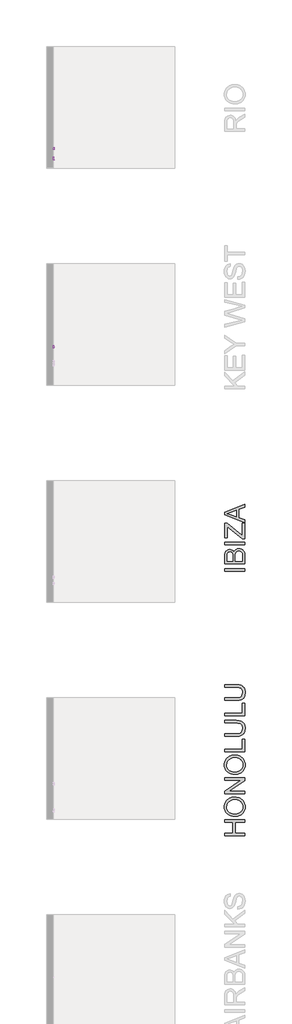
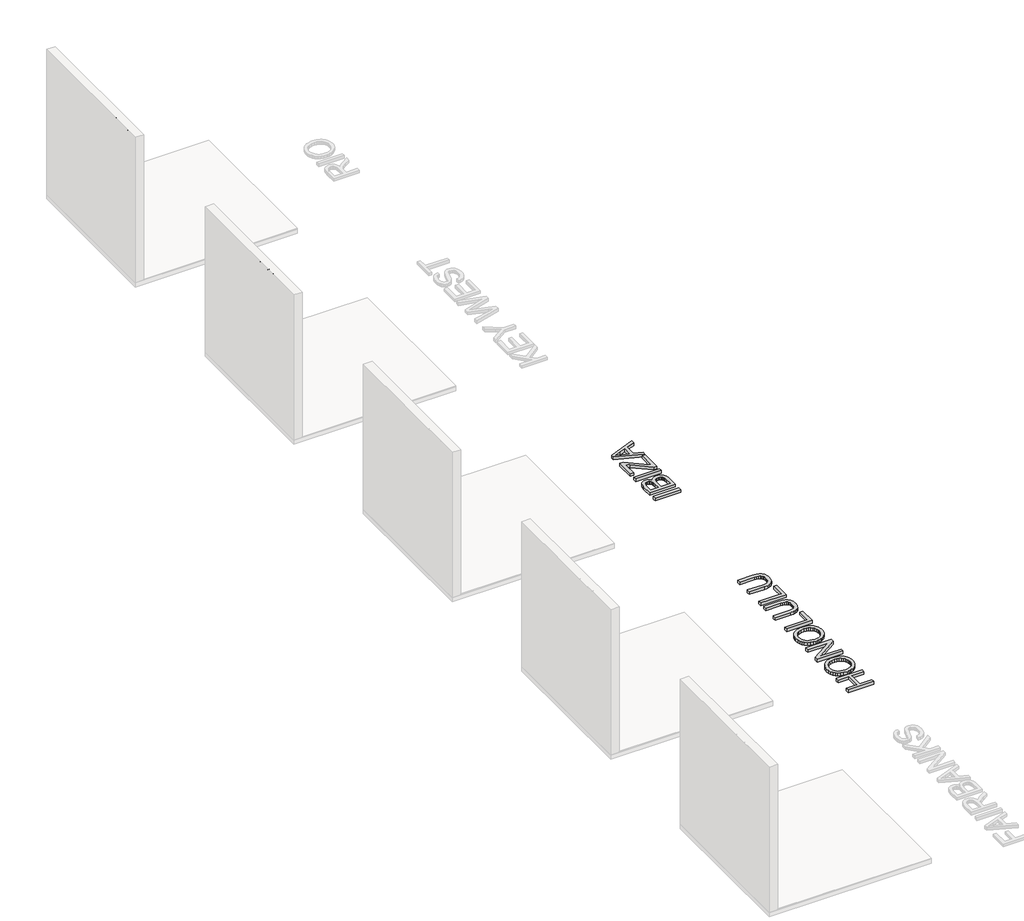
# One storey, part 6 of 7: 5 proxies.
"""IFC4 building model written with IfcOpenShell, lengths in millimetres."""

import ifcopenshell
import ifcopenshell.guid

model = None  # the IFC model being written
_history = None  # IfcOwnerHistory: only IFC2X3 demands one
_inside = {}  # id of a spatial element -> (the spatial element, [elements in it])
_under = {}  # id of a project, library or spatial element -> (it, [spatial elements below it])
_declared = {}  # id of a project -> (the project, [libraries it declares])
_typed = {}  # id of a type object -> (the type object, [elements of that type])
_made_of = {}  # id of a material, layer set ... -> (it, [elements and type objects made of it])


def new_model(schema):
    """Start an empty IFC model of exactly this schema.

    Asked for "IFC4X3", IfcOpenShell would pick the latest addendum, in which some entities
    have other attributes; the version numbers below select the first issue.
    IFC2X3 requires an IfcOwnerHistory on every rooted entity: one is made here for all.
    """
    global model, _history
    if schema == "IFC4X3":
        model = ifcopenshell.file(schema_version=(4, 3, 0, 0))
    else:
        model = ifcopenshell.file(schema=schema)
    _inside.clear()
    _under.clear()
    _declared.clear()
    _typed.clear()
    _made_of.clear()
    _history = None
    if model.schema == "IFC2X3":
        org = make("IfcOrganization", Name="unknown")
        user = make(
            "IfcPersonAndOrganization",
            ThePerson=make("IfcPerson", FamilyName="unknown"),
            TheOrganization=org,
        )
        app = make(
            "IfcApplication",
            ApplicationDeveloper=org,
            Version="unknown",
            ApplicationFullName="unknown",
            ApplicationIdentifier="unknown",
        )
        _history = make(
            "IfcOwnerHistory",
            OwningUser=user,
            OwningApplication=app,
            ChangeAction="ADDED",
            CreationDate=0,
        )
    return model


def make(cls, **values):
    """One entity of the class cls with the attributes given. An attribute that is None is left unset."""
    return model.create_entity(
        cls, **{name: value for name, value in values.items() if value is not None}
    )


def rooted(cls, **values):
    """An entity with a GlobalId (a new one), such as an element, a storey or a relation."""
    return make(cls, GlobalId=ifcopenshell.guid.new(), OwnerHistory=_history, **values)


def si_unit(unit_type, name, prefix=None):
    """IfcSIUnit, for example si_unit("LENGTHUNIT", "METRE", prefix="MILLI")."""
    return make("IfcSIUnit", UnitType=unit_type, Prefix=prefix, Name=name)


def assignment(units):
    """IfcUnitAssignment: the units of a project."""
    return None if units is None else make("IfcUnitAssignment", Units=units)


def point(xyz):
    """IfcCartesianPoint."""
    return None if xyz is None else make("IfcCartesianPoint", Coordinates=xyz)


def direction(xyz):
    """IfcDirection."""
    return None if xyz is None else make("IfcDirection", DirectionRatios=xyz)


def frame(location, z_axis=None, x_axis=None):
    """IfcAxis2Placement3D, a coordinate frame: its origin and axes. An axis left out is left unset."""
    return make(
        "IfcAxis2Placement3D",
        Location=point(location),
        Axis=direction(z_axis),
        RefDirection=direction(x_axis),
    )


def origin():
    """The frame at (0, 0, 0) with its axes left unset."""
    return frame((0.0, 0.0, 0.0))


def origin_with_axes():
    """The frame at (0, 0, 0) with the z axis (0, 0, 1) and the x axis (1, 0, 0) written out."""
    return frame((0.0, 0.0, 0.0), z_axis=(0.0, 0.0, 1.0), x_axis=(1.0, 0.0, 0.0))


def place(relative_to, where):
    """IfcLocalPlacement: puts the frame where relative to a parent placement (None: the world)."""
    return make(
        "IfcLocalPlacement", PlacementRelTo=relative_to, RelativePlacement=where
    )


def context(
    kind, dimensions, precision=None, world=None, true_north=None, identifier=None
):
    """IfcGeometricRepresentationContext, for example the 3D "Model" context."""
    return make(
        "IfcGeometricRepresentationContext",
        ContextIdentifier=identifier,
        ContextType=kind,
        CoordinateSpaceDimension=dimensions,
        Precision=precision,
        WorldCoordinateSystem=world,
        TrueNorth=true_north,
    )


def project(units=None, contexts=None):
    """IfcProject with its units and contexts."""
    return rooted(
        "IfcProject",
        Name="project",
        RepresentationContexts=contexts,
        UnitsInContext=assignment(units),
    )


def spatial(cls, under=None, at=None, **own):
    """A site, building, storey or space (cls), placed at a placement, below another one or the project."""
    s = rooted(cls, ObjectPlacement=at, **own)
    if under is not None:
        _under.setdefault(under.id(), (under, []))[1].append(s)
    return s


def polyline(points):
    """IfcPolyline through the points."""
    return make("IfcPolyline", Points=[point(p) for p in points])


def outline(outer, holes=None, kind="AREA"):
    """IfcArbitraryClosedProfileDef: a profile drawn as a closed curve; with holes, ...WithVoids."""
    if holes is None:
        return make("IfcArbitraryClosedProfileDef", ProfileType=kind, OuterCurve=outer)
    return make(
        "IfcArbitraryProfileDefWithVoids",
        ProfileType=kind,
        OuterCurve=outer,
        InnerCurves=holes,
    )


def extrude(swept, where, along, depth):
    """IfcExtrudedAreaSolid: the profile swept, set in the frame where, extruded along a direction by depth."""
    return make(
        "IfcExtrudedAreaSolid",
        SweptArea=swept,
        Position=where,
        ExtrudedDirection=direction(along),
        Depth=depth,
    )


def shape(context_of_items, identifier, shape_type, items):
    """IfcShapeRepresentation: the items that make up one representation, for example the "Body"."""
    return make(
        "IfcShapeRepresentation",
        ContextOfItems=context_of_items,
        RepresentationIdentifier=identifier,
        RepresentationType=shape_type,
        Items=items,
    )


def made_of(thing, what):
    """Note that an element or type object is made of a material, layer set ...; save() writes the relation."""
    if what is not None:
        _made_of.setdefault(what.id(), (what, []))[1].append(thing)
    return thing


def element(
    cls,
    number,
    at=None,
    inside=None,
    cuts=None,
    type_object=None,
    material=None,
    context=None,
    identifier="Body",
    shape_type=None,
    held_by="IfcProductDefinitionShape",
    body=None,
    shapes=None,
    **own,
):
    """One element of the class cls, such as IfcWall. Its Tag is "e" and its number.

    at: its placement. inside: the storey or other place that contains it. cuts: it is an
    opening in that element (IfcRelVoidsElement). A single representation is given by context,
    identifier, shape_type and body (its items); several are given by shapes. held_by: the class
    of the entity that holds the representations. save() writes the other relations.
    """
    e = rooted(cls, Tag="e%d" % number, ObjectPlacement=at, **own)
    if body is not None:
        shapes = [shape(context, identifier, shape_type, body)]
    if shapes is not None:
        e.Representation = make(held_by, Representations=shapes)
    if inside is not None:
        _inside.setdefault(inside.id(), (inside, []))[1].append(e)
    if cuts is not None:
        rooted(
            "IfcRelVoidsElement", RelatingBuildingElement=cuts, RelatedOpeningElement=e
        )
    if type_object is not None:
        _typed.setdefault(type_object.id(), (type_object, []))[1].append(e)
    return made_of(e, material)


def aggregate(whole, parts):
    """IfcRelAggregates: a whole, such as a stair, and the parts it consists of."""
    return rooted("IfcRelAggregates", RelatingObject=whole, RelatedObjects=parts)


def save(model, path):
    """Write the relations noted so far, then the file.

    IfcRelAggregates (storeys below a building ...), IfcRelContainedInSpatialStructure (elements
    in a storey), IfcRelDefinesByType, IfcRelAssociatesMaterial and IfcRelDeclares: one each for
    every whole, place, type object, material and project.
    """
    for whole, parts in _under.values():
        aggregate(whole, parts)
    for where, things in _inside.values():
        rooted(
            "IfcRelContainedInSpatialStructure",
            RelatedElements=things,
            RelatingStructure=where,
        )
    for kind, things in _typed.values():
        rooted("IfcRelDefinesByType", RelatedObjects=things, RelatingType=kind)
    for what, things in _made_of.values():
        rooted("IfcRelAssociatesMaterial", RelatedObjects=things, RelatingMaterial=what)
    for by, libraries in _declared.values():
        rooted("IfcRelDeclares", RelatingContext=by, RelatedDefinitions=libraries)
    model.write(path)


model = new_model("IFC4")

# Units and contexts
model_context = context("Model", 3, world=origin())
ifc_project = project(units=[si_unit("LENGTHUNIT", "METRE", prefix="MILLI")], contexts=[model_context])

# Site, building, storey
site = spatial("IfcSite", under=ifc_project)
building = spatial("IfcBuilding", under=site)
storey = spatial("IfcBuildingStorey", under=building, Name="PORTOBELLO - SHOWROOM", Elevation=0.0)

# Proxies
placement = place(None, origin())
element("IfcBuildingElementProxy", 1, Name="10mm Arial", ObjectType="10mm Arial", at=placement, inside=storey, context=model_context, shape_type="SweptSolid", body=[
    extrude(outline(polyline([(14906.1095472, 2478.0448381), (14906.1095472, 2578.5011483), (14949.3969953, 2578.5011483), (14969.4956149, 2575.7910842), (14980.4830239, 2566.2016269), (14984.5910395, 2551.0081005), (14982.8895853, 2541.1120748), (14977.7852226, 2532.9083063), (14969.1246673, 2526.8934357), (14956.7546352, 2523.5641036), (14963.8915459, 2518.1930265), (14974.0696144, 2505.2681057), (14990.8205079, 2478.0448381), (14976.2278555, 2478.0448381), (14963.1557819, 2498.866959), (14953.7134774, 2512.6502711), (14947.0793387, 2519.1617824), (14941.1073876, 2521.5530154), (14933.8233241, 2521.9944738), (14918.6665859, 2521.9944738), (14918.6665859, 2478.0448381), (14906.1095472, 2478.0448381)]), holes=[polyline([(14918.6665859, 2534.5515126), (14946.7727704, 2534.5515126), (14961.1079055, 2536.3296089), (14969.2503603, 2542.0195171), (14972.0340007, 2550.5421166), (14966.7242372, 2561.6031019), (14949.9365555, 2565.9441095), (14918.6665859, 2565.9441095), (14918.6665859, 2534.5515126)])]), frame((45290.81561, 0.0, 0.0), z_axis=(1.0, 0.0, 0.0), x_axis=(0.0, 1.0, 0.0)), (0.0, 0.0, 1.0), 20.0),
    extrude(outline(polyline([(45310.81561, 15017.5532662), (45310.81561, 15004.9962275), (45290.81561, 15004.9962275), (45290.81561, 15017.5532662), (45310.81561, 15017.5532662)])), frame((0.0, 0.0, 2565.9441095), z_axis=(0.0, 0.0, 1.0), x_axis=(1.0, 0.0, 0.0)), (0.0, 0.0, 1.0), 12.5570388),
    extrude(outline(polyline([(45310.81561, 15017.5532662), (45310.81561, 15004.9962275), (45290.81561, 15004.9962275), (45290.81561, 15017.5532662), (45310.81561, 15017.5532662)])), frame((0.0, 0.0, 2478.0448381), z_axis=(0.0, 0.0, 1.0), x_axis=(1.0, 0.0, 0.0)), (0.0, 0.0, 1.0), 73.7726028),
    extrude(outline(polyline([(15033.2495647, 2514.9311395), (15035.9657601, 2532.718234), (15044.1143463, 2545.2200904), (15054.1820502, 2551.3453256), (15066.2363169, 2553.3870707), (15079.4279522, 2550.9008016), (15089.9647056, 2543.4419941), (15096.8716901, 2531.5992596), (15099.1740182, 2515.9612091), (15095.1027908, 2493.6185092), (15083.2447279, 2480.9756313), (15066.2363169, 2476.4752083), (15052.8852662, 2478.9522804), (15042.3607755, 2486.3834967), (15035.5273674, 2498.4745516), (15033.2495647, 2514.9311395)]), holes=[polyline([(15045.8066035, 2514.955665), (15047.2597374, 2503.591177), (15051.619139, 2495.4947074), (15058.1797012, 2490.6478621), (15066.2363169, 2489.032247), (15074.2561444, 2490.6570592), (15080.804444, 2495.5314956), (15085.1638456, 2503.7352641), (15086.6169795, 2515.3480724), (15085.1546485, 2526.3814666), (15080.7676558, 2534.3675716), (15074.2101592, 2539.2144169), (15066.2363169, 2540.8300319), (15058.1797012, 2539.2205482), (15051.619139, 2534.392097), (15047.2597374, 2526.3140216), (15045.8066035, 2514.955665)])]), frame((45290.81561, 0.0, 0.0), z_axis=(1.0, 0.0, 0.0), x_axis=(0.0, 1.0, 0.0)), (0.0, 0.0, 1.0), 20.0),
])
element("IfcBuildingElementProxy", 2, Name="10mm Arial Narrow", ObjectType="10mm Arial Narrow", at=placement, inside=storey, context=model_context, shape_type="SweptSolid", body=[
    extrude(outline(polyline([(10733.2446063, 2478.0448381), (10733.2446063, 2578.7634419), (10764.541491, 2578.7634419), (10780.8371925, 2576.8851211), (10792.3101786, 2567.4046779), (10796.599857, 2550.3855691), (10794.8135486, 2538.3097436), (10789.4546234, 2528.6833498), (10779.7108346, 2522.3820914), (10764.7699354, 2520.2816719), (10742.9915679, 2520.2816719), (10742.9915679, 2478.0448381), (10733.2446063, 2478.0448381)]), holes=[polyline([(10742.9915679, 2531.6531272), (10765.9629229, 2531.6531272), (10781.8271183, 2536.1839414), (10786.8528954, 2549.8525322), (10784.3780809, 2560.0183086), (10778.4004521, 2565.8182584), (10765.7344785, 2567.3919866), (10742.9915679, 2567.3919866), (10742.9915679, 2531.6531272)])]), frame((45290.81561, 0.0, 0.0), z_axis=(1.0, 0.0, 0.0), x_axis=(0.0, 1.0, 0.0)), (0.0, 0.0, 1.0), 20.0),
    extrude(outline(polyline([(10804.7223251, 2514.5959443), (10806.676794, 2531.1867199), (10812.5402006, 2543.1388047), (10821.3987673, 2550.3633593), (10832.3387164, 2552.7715441), (10843.151752, 2550.3633593), (10852.0357014, 2543.1388047), (10857.9752562, 2531.3770902), (10859.9551078, 2515.3574257), (10858.0101574, 2498.1955391), (10852.1753064, 2486.0530839), (10843.3262582, 2478.8285294), (10832.3387164, 2476.4203445), (10821.4780883, 2478.834875), (10812.6036574, 2486.0784667), (10806.6926582, 2498.0368971), (10804.7223251, 2514.5959443)]), holes=[polyline([(10814.4692867, 2514.621327), (10815.7733236, 2502.0695756), (10819.6854342, 2493.1983175), (10825.5266309, 2487.925059), (10832.6179263, 2486.1673061), (10839.3379995, 2487.9409232), (10845.0300728, 2493.2617743), (10848.9136278, 2502.1488966), (10850.2081461, 2514.621327), (10848.9041093, 2527.1350043), (10844.9919987, 2535.9935711), (10839.1508019, 2541.2668296), (10832.0595066, 2543.0245825), (10825.2918408, 2541.2573111), (10819.6092861, 2535.955497), (10815.7542866, 2527.0874118), (10814.4692867, 2514.621327)])]), frame((45290.81561, 0.0, 0.0), z_axis=(1.0, 0.0, 0.0), x_axis=(0.0, 1.0, 0.0)), (0.0, 0.0, 1.0), 20.0),
    extrude(outline(polyline([(10931.4328266, 2486.1673061), (10933.0573202, 2476.4203445), (10925.6963335, 2476.4203445), (10917.4215692, 2478.539801), (10913.1065081, 2484.3397508), (10911.9389033, 2498.985576), (10911.9389033, 2541.4000889), (10903.8164352, 2541.4000889), (10903.8164352, 2544.6490761), (10902.1919416, 2539.7755952), (10894.6278933, 2541.4000889), (10888.5487336, 2539.0775706), (10884.6778699, 2532.5922876), (10882.6980183, 2517.184981), (10882.6980183, 2478.0448381), (10872.9510567, 2478.0448381), (10872.9510567, 2551.1470505), (10882.6980183, 2551.1470505), (10882.6980183, 2541.4508543), (10888.9421656, 2550.5378654), (10895.3386092, 2552.7715441), (10903.8164352, 2551.1470505), (10911.9389033, 2551.1470505), (10911.9389033, 2567.3919866), (10921.6858649, 2575.5144546), (10921.6858649, 2551.1470505), (10931.4328266, 2551.1470505), (10931.4328266, 2541.4000889), (10921.6858649, 2541.4000889), (10921.6858649, 2496.7518973), (10922.5488772, 2488.7563428), (10927.1685309, 2486.1673061), (10931.4328266, 2486.1673061)])), frame((45290.81561, 0.0, 0.0), z_axis=(1.0, 0.0, 0.0), x_axis=(0.0, 1.0, 0.0)), (0.0, 0.0, 1.0), 20.0),
    extrude(outline(polyline([(10937.930801, 2514.5959443), (10939.8852699, 2531.1867199), (10945.7486765, 2543.1388047), (10954.6072432, 2550.3633593), (10965.5471924, 2552.7715441), (10976.360228, 2550.3633593), (10985.2441774, 2543.1388047), (10991.1837321, 2531.3770902), (10993.1635837, 2515.3574257), (10991.2186334, 2498.1955391), (10985.3837823, 2486.0530839), (10976.5347341, 2478.8285294), (10965.5471924, 2476.4203445), (10954.6865642, 2478.834875), (10945.8121333, 2486.0784667), (10939.9011341, 2498.0368971), (10937.930801, 2514.5959443)]), holes=[polyline([(10947.6777627, 2514.621327), (10948.9817995, 2502.0695756), (10952.8939101, 2493.1983175), (10958.7351069, 2487.925059), (10965.8264022, 2486.1673061), (10972.5464754, 2487.9409232), (10978.2385487, 2493.2617743), (10982.1221037, 2502.1488966), (10983.4166221, 2514.621327), (10982.1125852, 2527.1350043), (10978.2004746, 2535.9935711), (10972.3592779, 2541.2668296), (10965.2679825, 2543.0245825), (10958.5003168, 2541.2573111), (10952.817762, 2535.955497), (10948.9627625, 2527.0874118), (10947.6777627, 2514.621327)])]), frame((45290.81561, 0.0, 0.0), z_axis=(1.0, 0.0, 0.0), x_axis=(0.0, 1.0, 0.0)), (0.0, 0.0, 1.0), 20.0),
    extrude(outline(polyline([(11015.9064942, 2478.0448381), (11006.1595326, 2478.0448381), (11006.1595326, 2578.7634419), (11015.9064942, 2578.7634419), (11015.9064942, 2543.3545577), (11023.305555, 2550.4363345), (11032.5067883, 2552.7715441), (11045.388515, 2548.5707052), (11054.6658964, 2535.8412748), (11058.1433281, 2515.154364), (11056.2110691, 2498.7000205), (11050.4142921, 2486.4972814), (11042.0411697, 2478.9395787), (11032.3798748, 2476.4203445), (11023.0390365, 2479.0347639), (11015.9064942, 2486.801874), (11015.9064942, 2478.0448381)]), holes=[polyline([(11015.9064942, 2515.154364), (11017.9878767, 2497.9068107), (11023.876666, 2489.1751576), (11032.3291093, 2486.1673061), (11038.2718369, 2487.9567874), (11043.5101942, 2493.3252311), (11048.3963664, 2514.7482406), (11043.6878732, 2536.1839414), (11038.4431702, 2541.3144222), (11032.1260476, 2543.0245825), (11026.1484188, 2541.2351012), (11020.8561232, 2535.8666575), (11015.9064942, 2515.154364)])]), frame((45290.81561, 0.0, 0.0), z_axis=(1.0, 0.0, 0.0), x_axis=(0.0, 1.0, 0.0)), (0.0, 0.0, 1.0), 20.0),
    extrude(outline(polyline([(11110.1271236, 2500.7877486), (11119.8740852, 2499.163255), (11116.1745549, 2489.2766884), (11110.355568, 2482.1568376), (11102.6519147, 2477.8544678), (11093.2983851, 2476.4203445), (11081.7048311, 2478.834875), (11072.5607089, 2486.0784667), (11066.6211541, 2497.8846009), (11064.6413025, 2513.9867592), (11066.6306726, 2530.6536829), (11072.5987829, 2542.8342121), (11081.6128188, 2550.2872111), (11092.7399654, 2552.7715441), (11103.4229146, 2550.3728778), (11112.1704319, 2543.1768787), (11118.005283, 2531.4373741), (11119.9502334, 2515.4081911), (11119.8740852, 2512.1592039), (11074.3882642, 2512.1592039), (11080.3912757, 2492.716046), (11086.3213119, 2487.8044911), (11093.4252986, 2486.1673061), (11103.6037664, 2489.8224168), (11110.1271236, 2500.7877486)]), holes=[polyline([(11075.0482147, 2521.9061655), (11110.1271236, 2521.9061655), (11105.8628278, 2536.17125), (11100.0374953, 2541.3112494), (11092.8161135, 2543.0245825), (11080.6070288, 2537.3134721), (11075.0482147, 2521.9061655)])]), frame((45290.81561, 0.0, 0.0), z_axis=(1.0, 0.0, 0.0), x_axis=(0.0, 1.0, 0.0)), (0.0, 0.0, 1.0), 20.0),
    extrude(outline(polyline([(45310.81561, 11142.6169957), (45310.81561, 11132.8700341), (45290.81561, 11132.8700341), (45290.81561, 11142.6169957), (45310.81561, 11142.6169957)])), frame((0.0, 0.0, 2478.0448381), z_axis=(0.0, 0.0, 1.0), x_axis=(1.0, 0.0, 0.0)), (0.0, 0.0, 1.0), 100.7186038),
    extrude(outline(polyline([(45310.81561, 11168.6088935), (45310.81561, 11158.8619318), (45290.81561, 11158.8619318), (45290.81561, 11168.6088935), (45310.81561, 11168.6088935)])), frame((0.0, 0.0, 2478.0448381), z_axis=(0.0, 0.0, 1.0), x_axis=(1.0, 0.0, 0.0)), (0.0, 0.0, 1.0), 100.7186038),
    extrude(outline(polyline([(11179.9803487, 2514.5959443), (11181.9348176, 2531.1867199), (11187.7982242, 2543.1388047), (11196.656791, 2550.3633593), (11207.5967401, 2552.7715441), (11218.4097757, 2550.3633593), (11227.2937251, 2543.1388047), (11233.2332799, 2531.3770902), (11235.2131315, 2515.3574257), (11233.2681811, 2498.1955391), (11227.43333, 2486.0530839), (11218.5842818, 2478.8285294), (11207.5967401, 2476.4203445), (11196.7361119, 2478.834875), (11187.861681, 2486.0784667), (11181.9506818, 2498.0368971), (11179.9803487, 2514.5959443)]), holes=[polyline([(11189.7273104, 2514.621327), (11191.0313473, 2502.0695756), (11194.9434578, 2493.1983175), (11200.7846546, 2487.925059), (11207.8759499, 2486.1673061), (11214.5960231, 2487.9409232), (11220.2880964, 2493.2617743), (11224.1716515, 2502.1488966), (11225.4661698, 2514.621327), (11224.1621329, 2527.1350043), (11220.2500224, 2535.9935711), (11214.4088256, 2541.2668296), (11207.3175303, 2543.0245825), (11200.5498645, 2541.2573111), (11194.8673097, 2535.955497), (11191.0123102, 2527.0874118), (11189.7273104, 2514.621327)])]), frame((45290.81561, 0.0, 0.0), z_axis=(1.0, 0.0, 0.0), x_axis=(0.0, 1.0, 0.0)), (0.0, 0.0, 1.0), 20.0),
])
element("IfcBuildingElementProxy", 3, Name="10mm Arial Narrow", ObjectType="10mm Arial Narrow", at=placement, inside=storey, context=model_context, shape_type="SweptSolid", body=[
    extrude(outline(polyline([(15139.2628301, 2478.0448381), (15139.2628301, 2578.7634419), (15170.5597147, 2578.7634419), (15186.8554163, 2576.8851211), (15198.3284024, 2567.4046779), (15202.6180808, 2550.3855691), (15200.8317724, 2538.3097436), (15195.4728472, 2528.6833498), (15185.7290584, 2522.3820914), (15170.7881592, 2520.2816719), (15149.0097917, 2520.2816719), (15149.0097917, 2478.0448381), (15139.2628301, 2478.0448381)]), holes=[polyline([(15149.0097917, 2531.6531272), (15171.9811467, 2531.6531272), (15187.8453421, 2536.1839414), (15192.8711192, 2549.8525322), (15190.3963047, 2560.0183086), (15184.4186758, 2565.8182584), (15171.7527022, 2567.3919866), (15149.0097917, 2567.3919866), (15149.0097917, 2531.6531272)])]), frame((45290.81561, 0.0, 0.0), z_axis=(1.0, 0.0, 0.0), x_axis=(0.0, 1.0, 0.0)), (0.0, 0.0, 1.0), 20.0),
    extrude(outline(polyline([(15210.7405489, 2514.5959443), (15212.6950177, 2531.1867199), (15218.5584243, 2543.1388047), (15227.4169911, 2550.3633593), (15238.3569402, 2552.7715441), (15249.1699758, 2550.3633593), (15258.0539252, 2543.1388047), (15263.99348, 2531.3770902), (15265.9733316, 2515.3574257), (15264.0283812, 2498.1955391), (15258.1935301, 2486.0530839), (15249.3444819, 2478.8285294), (15238.3569402, 2476.4203445), (15227.496312, 2478.834875), (15218.6218811, 2486.0784667), (15212.7108819, 2498.0368971), (15210.7405489, 2514.5959443)]), holes=[polyline([(15220.4875105, 2514.621327), (15221.7915474, 2502.0695756), (15225.703658, 2493.1983175), (15231.5448547, 2487.925059), (15238.63615, 2486.1673061), (15245.3562232, 2487.9409232), (15251.0482965, 2493.2617743), (15254.9318516, 2502.1488966), (15256.2263699, 2514.621327), (15254.922333, 2527.1350043), (15251.0102225, 2535.9935711), (15245.1690257, 2541.2668296), (15238.0777304, 2543.0245825), (15231.3100646, 2541.2573111), (15225.6275098, 2535.955497), (15221.7725103, 2527.0874118), (15220.4875105, 2514.621327)])]), frame((45290.81561, 0.0, 0.0), z_axis=(1.0, 0.0, 0.0), x_axis=(0.0, 1.0, 0.0)), (0.0, 0.0, 1.0), 20.0),
    extrude(outline(polyline([(15337.4510503, 2486.1673061), (15339.075544, 2476.4203445), (15331.7145573, 2476.4203445), (15323.439793, 2478.539801), (15319.1247318, 2484.3397508), (15317.957127, 2498.985576), (15317.957127, 2541.4000889), (15309.834659, 2541.4000889), (15309.834659, 2544.6490761), (15308.2101654, 2539.7755952), (15300.646117, 2541.4000889), (15294.5669573, 2539.0775706), (15290.6960937, 2532.5922876), (15288.7162421, 2517.184981), (15288.7162421, 2478.0448381), (15278.9692804, 2478.0448381), (15278.9692804, 2551.1470505), (15288.7162421, 2551.1470505), (15288.7162421, 2541.4508543), (15294.9603894, 2550.5378654), (15301.356833, 2552.7715441), (15309.834659, 2551.1470505), (15317.957127, 2551.1470505), (15317.957127, 2567.3919866), (15327.7040887, 2575.5144546), (15327.7040887, 2551.1470505), (15337.4510503, 2551.1470505), (15337.4510503, 2541.4000889), (15327.7040887, 2541.4000889), (15327.7040887, 2496.7518973), (15328.5671009, 2488.7563428), (15333.1867546, 2486.1673061), (15337.4510503, 2486.1673061)])), frame((45290.81561, 0.0, 0.0), z_axis=(1.0, 0.0, 0.0), x_axis=(0.0, 1.0, 0.0)), (0.0, 0.0, 1.0), 20.0),
    extrude(outline(polyline([(15343.9490248, 2514.5959443), (15345.9034937, 2531.1867199), (15351.7669003, 2543.1388047), (15360.625467, 2550.3633593), (15371.5654161, 2552.7715441), (15382.3784517, 2550.3633593), (15391.2624011, 2543.1388047), (15397.2019559, 2531.3770902), (15399.1818075, 2515.3574257), (15397.2368571, 2498.1955391), (15391.4020061, 2486.0530839), (15382.5529579, 2478.8285294), (15371.5654161, 2476.4203445), (15360.704788, 2478.834875), (15351.8303571, 2486.0784667), (15345.9193579, 2498.0368971), (15343.9490248, 2514.5959443)]), holes=[polyline([(15353.6959864, 2514.621327), (15355.0000233, 2502.0695756), (15358.9121339, 2493.1983175), (15364.7533306, 2487.925059), (15371.844626, 2486.1673061), (15378.5646991, 2487.9409232), (15384.2567725, 2493.2617743), (15388.1403275, 2502.1488966), (15389.4348458, 2514.621327), (15388.130809, 2527.1350043), (15384.2186984, 2535.9935711), (15378.3775016, 2541.2668296), (15371.2862063, 2543.0245825), (15364.5185405, 2541.2573111), (15358.8359857, 2535.955497), (15354.9809863, 2527.0874118), (15353.6959864, 2514.621327)])]), frame((45290.81561, 0.0, 0.0), z_axis=(1.0, 0.0, 0.0), x_axis=(0.0, 1.0, 0.0)), (0.0, 0.0, 1.0), 20.0),
    extrude(outline(polyline([(15421.924718, 2478.0448381), (15412.1777564, 2478.0448381), (15412.1777564, 2578.7634419), (15421.924718, 2578.7634419), (15421.924718, 2543.3545577), (15429.3237787, 2550.4363345), (15438.5250121, 2552.7715441), (15451.4067387, 2548.5707052), (15460.6841202, 2535.8412748), (15464.1615518, 2515.154364), (15462.2292928, 2498.7000205), (15456.4325158, 2486.4972814), (15448.0593935, 2478.9395787), (15438.3980985, 2476.4203445), (15429.0572603, 2479.0347639), (15421.924718, 2486.801874), (15421.924718, 2478.0448381)]), holes=[polyline([(15421.924718, 2515.154364), (15424.0061004, 2497.9068107), (15429.8948898, 2489.1751576), (15438.3473331, 2486.1673061), (15444.2900607, 2487.9567874), (15449.528418, 2493.3252311), (15454.4145902, 2514.7482406), (15449.706097, 2536.1839414), (15444.461394, 2541.3144222), (15438.1442714, 2543.0245825), (15432.1666426, 2541.2351012), (15426.874347, 2535.8666575), (15421.924718, 2515.154364)])]), frame((45290.81561, 0.0, 0.0), z_axis=(1.0, 0.0, 0.0), x_axis=(0.0, 1.0, 0.0)), (0.0, 0.0, 1.0), 20.0),
    extrude(outline(polyline([(15516.1453473, 2500.7877486), (15525.892309, 2499.163255), (15522.1927786, 2489.2766884), (15516.3737917, 2482.1568376), (15508.6701385, 2477.8544678), (15499.3166088, 2476.4203445), (15487.7230549, 2478.834875), (15478.5789326, 2486.0784667), (15472.6393779, 2497.8846009), (15470.6595263, 2513.9867592), (15472.6488964, 2530.6536829), (15478.6170067, 2542.8342121), (15487.6310425, 2550.2872111), (15498.7581892, 2552.7715441), (15509.4411384, 2550.3728778), (15518.1886557, 2543.1768787), (15524.0235068, 2531.4373741), (15525.9684571, 2515.4081911), (15525.892309, 2512.1592039), (15480.4064879, 2512.1592039), (15486.4094995, 2492.716046), (15492.3395357, 2487.8044911), (15499.4435224, 2486.1673061), (15509.6219902, 2489.8224168), (15516.1453473, 2500.7877486)]), holes=[polyline([(15481.0664385, 2521.9061655), (15516.1453473, 2521.9061655), (15511.8810516, 2536.17125), (15506.0557191, 2541.3112494), (15498.8343373, 2543.0245825), (15486.6252525, 2537.3134721), (15481.0664385, 2521.9061655)])]), frame((45290.81561, 0.0, 0.0), z_axis=(1.0, 0.0, 0.0), x_axis=(0.0, 1.0, 0.0)), (0.0, 0.0, 1.0), 20.0),
    extrude(outline(polyline([(45310.81561, 15548.6352195), (45310.81561, 15538.8882579), (45290.81561, 15538.8882579), (45290.81561, 15548.6352195), (45310.81561, 15548.6352195)])), frame((0.0, 0.0, 2478.0448381), z_axis=(0.0, 0.0, 1.0), x_axis=(1.0, 0.0, 0.0)), (0.0, 0.0, 1.0), 100.7186038),
    extrude(outline(polyline([(45310.81561, 15574.6271172), (45310.81561, 15564.8801556), (45290.81561, 15564.8801556), (45290.81561, 15574.6271172), (45310.81561, 15574.6271172)])), frame((0.0, 0.0, 2478.0448381), z_axis=(0.0, 0.0, 1.0), x_axis=(1.0, 0.0, 0.0)), (0.0, 0.0, 1.0), 100.7186038),
    extrude(outline(polyline([(15585.9985725, 2514.5959443), (15587.9530414, 2531.1867199), (15593.816448, 2543.1388047), (15602.6750147, 2550.3633593), (15613.6149639, 2552.7715441), (15624.4279994, 2550.3633593), (15633.3119489, 2543.1388047), (15639.2515036, 2531.3770902), (15641.2313552, 2515.3574257), (15639.2864049, 2498.1955391), (15633.4515538, 2486.0530839), (15624.6025056, 2478.8285294), (15613.6149639, 2476.4203445), (15602.7543357, 2478.834875), (15593.8799048, 2486.0784667), (15587.9689056, 2498.0368971), (15585.9985725, 2514.5959443)]), holes=[polyline([(15595.7455342, 2514.621327), (15597.049571, 2502.0695756), (15600.9616816, 2493.1983175), (15606.8028784, 2487.925059), (15613.8941737, 2486.1673061), (15620.6142469, 2487.9409232), (15626.3063202, 2493.2617743), (15630.1898752, 2502.1488966), (15631.4843936, 2514.621327), (15630.1803567, 2527.1350043), (15626.2682461, 2535.9935711), (15620.4270494, 2541.2668296), (15613.335754, 2543.0245825), (15606.5680883, 2541.2573111), (15600.8855335, 2535.955497), (15597.030534, 2527.0874118), (15595.7455342, 2514.621327)])]), frame((45290.81561, 0.0, 0.0), z_axis=(1.0, 0.0, 0.0), x_axis=(0.0, 1.0, 0.0)), (0.0, 0.0, 1.0), 20.0),
])
element("IfcBuildingElementProxy", 4, Name="450mm Arial", ObjectType="450mm Arial", at=placement, inside=storey, context=model_context, shape_type="SweptSolid", body=[
    extrude(outline(polyline([(49549.5356427, -108.6241778), (49099.8794999, -108.6241778), (49099.8794999, -52.4171599), (49282.552308, -52.4171599), (49282.552308, 186.462666), (49099.8794999, 186.462666), (49099.8794999, 242.6696838), (49549.5356427, 242.6696838), (49549.5356427, 186.462666), (49338.7593258, 186.462666), (49338.7593258, -52.4171599), (49549.5356427, -52.4171599), (49549.5356427, -108.6241778)])), origin_with_axes(), (0.0, 0.0, 1.0), 50.0),
    extrude(outline(polyline([(49330.6356553, 319.9543334), (49277.8935476, 323.7005531), (49231.2030255, 334.9392121), (49190.5640892, 353.6703106), (49155.9767385, 379.8938485), (49128.3603753, 412.0386091), (49108.6344016, 448.5333757), (49096.7988174, 489.3781483), (49092.8536227, 534.5729269), (49094.7061489, 564.823994), (49100.2637276, 593.5518729), (49109.5263587, 620.7565635), (49122.4940423, 646.438066), (49138.7756894, 669.8759533), (49157.9802113, 690.3497987), (49180.1076078, 707.8596021), (49205.1578791, 722.4053635), (49232.5615448, 733.8361364), (49261.7491246, 742.0009742), (49292.7206186, 746.8998769), (49325.4760267, 748.5328445), (49358.6636909, 746.8141118), (49390.0537186, 741.6579138), (49419.6461097, 733.0642505), (49447.4408642, 721.0331219), (49472.7038329, 705.8492681), (49494.7008665, 687.7974292), (49513.431965, 666.8776053), (49528.8971284, 643.0897963), (49541.0002997, 617.3705573), (49549.6454221, 590.656443), (49554.8324955, 562.9474536), (49556.56152, 534.2435889), (49554.6506735, 503.4642088), (49548.918134, 474.3589635), (49539.3639015, 446.9278529), (49525.9879761, 421.1708772), (49509.3083789, 397.7604347), (49489.8431311, 377.3689239), (49467.5922328, 359.9963446), (49442.555684, 345.642697), (49415.7386516, 334.4040379), (49388.1463027, 326.3764243), (49359.7786372, 321.5598561), (49330.6356553, 319.9543334)]), holes=[polyline([(49331.1845519, 376.1613512), (49368.4477738, 378.971016), (49401.5256587, 387.4000103), (49430.4182066, 401.4483342), (49455.1254175, 421.1159876), (49474.913142, 445.0238677), (49489.047231, 471.7928716), (49497.5276843, 501.4229993), (49500.3545021, 533.9142509), (49497.5002395, 566.9612604), (49488.9374516, 596.9413098), (49474.6661385, 623.8543991), (49454.6863001, 647.7005283), (49429.4576374, 667.2240963), (49399.4398514, 681.169502), (49364.6329421, 689.5367455), (49325.0369093, 692.3258266), (49275.2794272, 687.5504257), (49232.273374, 673.2242229), (49197.1028206, 649.7177235), (49170.8518379, 617.4014327), (49154.5084399, 578.4160475), (49149.0606406, 534.9022649), (49151.6850527, 503.5396821), (49159.5582892, 474.441298), (49172.6803499, 447.6071126), (49191.0512349, 423.0371259), (49215.5560402, 402.5289745), (49247.0798614, 387.8802949), (49285.6226986, 379.0910871), (49331.1845519, 376.1613512)])]), origin_with_axes(), (0.0, 0.0, 1.0), 50.0),
    extrude(outline(polyline([(49549.5356427, 825.817494), (49099.8794999, 825.817494), (49099.8794999, 885.9765678), (49456.1134314, 1120.9043378), (49099.8794999, 1120.9043378), (49099.8794999, 1177.1113556), (49549.5356427, 1177.1113556), (49549.5356427, 1116.9522818), (49193.1919319, 882.0245119), (49549.5356427, 882.0245119), (49549.5356427, 825.817494)])), origin_with_axes(), (0.0, 0.0, 1.0), 50.0),
    extrude(outline(polyline([(49330.6356553, 1254.3960052), (49277.8935476, 1258.1422248), (49231.2030255, 1269.3808839), (49190.5640892, 1288.1119824), (49155.9767385, 1314.3355203), (49128.3603753, 1346.4802809), (49108.6344016, 1382.9750475), (49096.7988174, 1423.8198201), (49092.8536227, 1469.0145987), (49094.7061489, 1499.2656658), (49100.2637276, 1527.9935447), (49109.5263587, 1555.1982353), (49122.4940423, 1580.8797378), (49138.7756894, 1604.3176251), (49157.9802113, 1624.7914705), (49180.1076078, 1642.3012739), (49205.1578791, 1656.8470353), (49232.5615448, 1668.2778082), (49261.7491246, 1676.442646), (49292.7206186, 1681.3415487), (49325.4760267, 1682.9745163), (49358.6636909, 1681.2557836), (49390.0537186, 1676.0995856), (49419.6461097, 1667.5059223), (49447.4408642, 1655.4747937), (49472.7038329, 1640.2909399), (49494.7008665, 1622.239101), (49513.431965, 1601.3192771), (49528.8971284, 1577.5314681), (49541.0002997, 1551.8122291), (49549.6454221, 1525.0981148), (49554.8324955, 1497.3891254), (49556.56152, 1468.6852607), (49554.6506735, 1437.9058806), (49548.918134, 1408.8006352), (49539.3639015, 1381.3695247), (49525.9879761, 1355.612549), (49509.3083789, 1332.2021065), (49489.8431311, 1311.8105957), (49467.5922328, 1294.4380164), (49442.555684, 1280.0843688), (49415.7386516, 1268.8457097), (49388.1463027, 1260.8180961), (49359.7786372, 1256.0015279), (49330.6356553, 1254.3960052)]), holes=[polyline([(49331.1845519, 1310.603023), (49368.4477738, 1313.4126878), (49401.5256587, 1321.8416821), (49430.4182066, 1335.890006), (49455.1254175, 1355.5576594), (49474.913142, 1379.4655394), (49489.047231, 1406.2345434), (49497.5276843, 1435.8646711), (49500.3545021, 1468.3559227), (49497.5002395, 1501.4029322), (49488.9374516, 1531.3829816), (49474.6661385, 1558.2960709), (49454.6863001, 1582.1422001), (49429.4576374, 1601.6657681), (49399.4398514, 1615.6111738), (49364.6329421, 1623.9784173), (49325.0369093, 1626.7674984), (49275.2794272, 1621.9920975), (49232.273374, 1607.6658947), (49197.1028206, 1584.1593953), (49170.8518379, 1551.8431045), (49154.5084399, 1512.8577193), (49149.0606406, 1469.3439367), (49151.6850527, 1437.9813539), (49159.5582892, 1408.8829697), (49172.6803499, 1382.0487843), (49191.0512349, 1357.4787977), (49215.5560402, 1336.9706462), (49247.0798614, 1322.3219667), (49285.6226986, 1313.5327589), (49331.1845519, 1310.603023)])]), origin_with_axes(), (0.0, 0.0, 1.0), 50.0),
    extrude(outline(polyline([(49549.5356427, 1760.2591658), (49099.8794999, 1760.2591658), (49099.8794999, 1816.4661837), (49493.3286249, 1816.4661837), (49493.3286249, 2041.2942551), (49549.5356427, 2041.2942551), (49549.5356427, 1760.2591658)])), origin_with_axes(), (0.0, 0.0, 1.0), 50.0),
    extrude(outline(polyline([(49099.8794999, 2399.6139939), (49099.8794999, 2455.8210117), (49359.2880608, 2455.8210117), (49420.0371985, 2452.00618), (49466.8169163, 2440.5616846), (49485.788157, 2431.4019716), (49502.9068716, 2419.1821598), (49518.1730599, 2403.902249), (49531.586722, 2385.5622394), (49542.5131961, 2364.1415473), (49550.3178205, 2339.6195891), (49555.0005951, 2311.9963647), (49556.56152, 2281.2718743), (49551.1274431, 2224.2003442), (49544.3348469, 2199.9562649), (49534.8252123, 2178.5733094), (49522.739194, 2160.0480472), (49508.2174468, 2144.3770476), (49491.2599706, 2131.5603106), (49471.8667655, 2121.5978363), (49423.1110198, 2108.7948217), (49359.2880608, 2104.5271502), (49099.8794999, 2104.5271502), (49099.8794999, 2160.734168), (49357.3120329, 2160.734168), (49407.8242479, 2163.5060961), (49442.9948013, 2171.8218805), (49467.3520905, 2186.8890938), (49485.424513, 2209.9153086), (49496.6220048, 2239.9399559), (49500.3545021, 2276.0024663), (49498.5088371, 2306.9808215), (49492.9718421, 2333.1700534), (49483.743517, 2354.5701618), (49470.8238619, 2371.181147), (49452.6553825, 2383.6205175), (49427.6805845, 2392.5057822), (49395.899468, 2397.836941), (49357.3120329, 2399.6139939), (49099.8794999, 2399.6139939)])), origin_with_axes(), (0.0, 0.0, 1.0), 50.0),
    extrude(outline(polyline([(49549.5356427, 2554.183293), (49099.8794999, 2554.183293), (49099.8794999, 2610.3903108), (49493.3286249, 2610.3903108), (49493.3286249, 2835.2183822), (49549.5356427, 2835.2183822), (49549.5356427, 2554.183293)])), origin_with_axes(), (0.0, 0.0, 1.0), 50.0),
    extrude(outline(polyline([(49099.8794999, 3193.5381211), (49099.8794999, 3249.7451389), (49359.2880608, 3249.7451389), (49420.0371985, 3245.9303071), (49466.8169163, 3234.4858118), (49485.788157, 3225.3260988), (49502.9068716, 3213.1062869), (49518.1730599, 3197.8263762), (49531.586722, 3179.4863666), (49542.5131961, 3158.0656745), (49550.3178205, 3133.5437163), (49555.0005951, 3105.9204919), (49556.56152, 3075.1960014), (49551.1274431, 3018.1244713), (49544.3348469, 2993.8803921), (49534.8252123, 2972.4974366), (49522.739194, 2953.9721744), (49508.2174468, 2938.3011748), (49491.2599706, 2925.4844378), (49471.8667655, 2915.5219634), (49423.1110198, 2902.7189489), (49359.2880608, 2898.4512773), (49099.8794999, 2898.4512773), (49099.8794999, 2954.6582952), (49357.3120329, 2954.6582952), (49407.8242479, 2957.4302233), (49442.9948013, 2965.7460077), (49467.3520905, 2980.813221), (49485.424513, 3003.8394358), (49496.6220048, 3033.864083), (49500.3545021, 3069.9265935), (49498.5088371, 3100.9049487), (49492.9718421, 3127.0941805), (49483.743517, 3148.494289), (49470.8238619, 3165.1052741), (49452.6553825, 3177.5446447), (49427.6805845, 3186.4299093), (49395.899468, 3191.7610681), (49357.3120329, 3193.5381211), (49099.8794999, 3193.5381211)])), origin_with_axes(), (0.0, 0.0, 1.0), 50.0),
])
element("IfcBuildingElementProxy", 5, Name="450mm Arial", ObjectType="450mm Arial", at=placement, inside=storey, context=model_context, shape_type="SweptSolid", body=[
    extrude(outline(polyline([(49549.5356427, 5766.3825594), (49099.8794999, 5766.3825594), (49099.8794999, 5822.5895772), (49549.5356427, 5822.5895772), (49549.5356427, 5766.3825594)])), origin_with_axes(), (0.0, 0.0, 1.0), 50.0),
    extrude(outline(polyline([(49549.5356427, 5935.0036129), (49099.8794999, 5935.0036129), (49099.8794999, 6106.5887084), (49103.1866023, 6153.7800987), (49113.1079094, 6190.6247869), (49129.8904247, 6218.86552), (49153.7811518, 6240.2450448), (49181.8846607, 6253.7067354), (49211.3055217, 6258.1939656), (49238.3798493, 6254.420301), (49263.8349319, 6243.0993075), (49286.1064138, 6224.1486503), (49303.6299396, 6197.4859951), (49320.2615084, 6229.3357237), (49345.5656444, 6252.869668), (49377.8682127, 6267.401707), (49415.4950787, 6272.24572), (49446.8508003, 6268.9386177), (49475.9286008, 6259.0173106), (49500.6563953, 6244.2108232), (49518.9620989, 6226.24818), (49532.2179532, 6204.2511464), (49541.7961999, 6177.3414877), (49547.600782, 6144.6409693), (49549.5356427, 6105.2713565), (49549.5356427, 5935.0036129)]), holes=[polyline([(49282.552308, 5991.2106308), (49282.552308, 6093.854306), (49281.3447353, 6129.7521474), (49277.7220174, 6153.7938211), (49269.3925106, 6174.7753959), (49256.918834, 6189.8563316), (49240.4931015, 6198.9542937), (49220.3074269, 6201.9869477), (49200.7118161, 6199.1601299), (49183.6411301, 6190.6796766), (49170.3166637, 6176.9298153), (49161.959712, 6158.2947737), (49157.5548163, 6129.6972578), (49156.0865178, 6086.0599734), (49156.0865178, 5991.2106308), (49282.552308, 5991.2106308)]), polyline([(49493.3286249, 5991.2106308), (49493.3286249, 6106.4789291), (49491.1330383, 6148.1950752), (49486.2615804, 6167.5574048), (49478.8926428, 6183.4891303), (49468.3401045, 6196.4430915), (49453.9178448, 6206.872128), (49436.2708172, 6213.7470586), (49416.0439754, 6216.0387022), (49392.5511984, 6213.3491086), (49372.3518013, 6205.2803277), (49356.5573, 6191.187406), (49346.27921, 6170.4253898), (49340.6392969, 6141.0182514), (49338.7593258, 6100.9899625), (49338.7593258, 5991.2106308), (49493.3286249, 5991.2106308)])]), origin_with_axes(), (0.0, 0.0, 1.0), 50.0),
    extrude(outline(polyline([(49549.5356427, 6356.5562468), (49099.8794999, 6356.5562468), (49099.8794999, 6412.7632647), (49549.5356427, 6412.7632647), (49549.5356427, 6356.5562468)])), origin_with_axes(), (0.0, 0.0, 1.0), 50.0),
    extrude(outline(polyline([(49549.5356427, 6490.0479142), (49491.2428176, 6490.0479142), (49209.6588317, 6720.0356142), (49156.0865178, 6763.7277882), (49156.0865178, 6518.1514231), (49099.8794999, 6518.1514231), (49099.8794999, 6834.3158986), (49156.0865178, 6834.3158986), (49464.237102, 6582.5918909), (49493.3286249, 6558.8795552), (49493.3286249, 6841.3417758), (49549.5356427, 6841.3417758), (49549.5356427, 6490.0479142)])), origin_with_axes(), (0.0, 0.0, 1.0), 50.0),
    extrude(outline(polyline([(49549.5356427, 6852.2099296), (49099.8794999, 7031.699137), (49099.8794999, 7079.5629257), (49549.5356427, 7259.0521331), (49549.5356427, 7199.6615146), (49409.0180981, 7148.175008), (49409.0180981, 6962.9772754), (49549.5356427, 6911.6005481), (49549.5356427, 6852.2099296)]), holes=[polyline([(49352.8110803, 6983.6157897), (49352.8110803, 7127.646273), (49242.2632932, 7087.1376996), (49156.0865178, 7055.6310314), (49232.602712, 7027.6373018), (49352.8110803, 6983.6157897)])]), origin_with_axes(), (0.0, 0.0, 1.0), 50.0),
])

save(model, "model.ifc")
